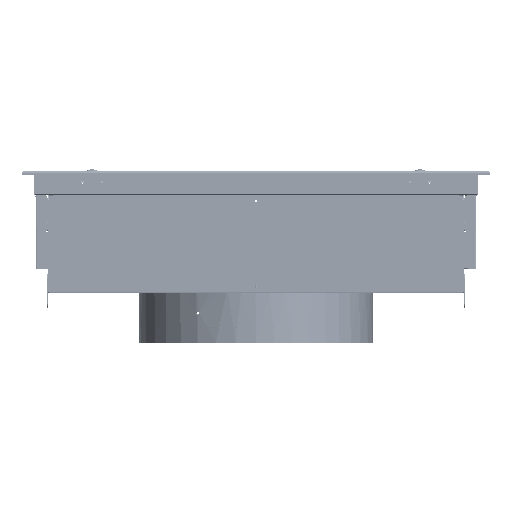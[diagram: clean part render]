
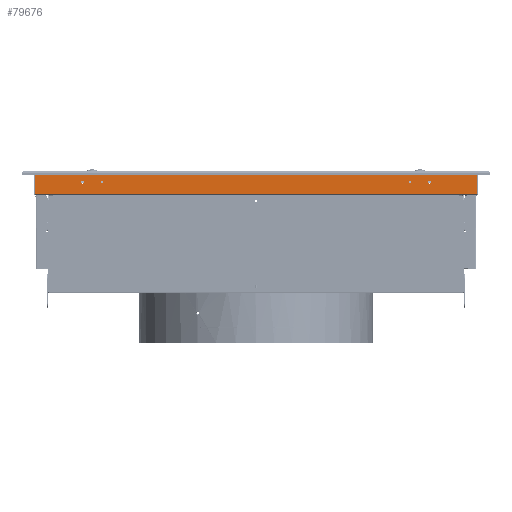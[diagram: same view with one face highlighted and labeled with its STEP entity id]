
A CAD part, left-side view. The second image highlights one B-rep face of the part: STEP entity #79676.
In plain terms, the highlighted planar face has unit normal (-1, 0, 0).
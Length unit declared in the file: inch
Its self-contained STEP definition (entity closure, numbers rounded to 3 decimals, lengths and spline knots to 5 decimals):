
#157 = CIRCLE ( 'NONE', #105210, 0.07 ) ;
#3573 = LINE ( 'NONE', #23589, #54228 ) ;
#6796 = AXIS2_PLACEMENT_3D ( 'NONE', #30932, #31533, #106891 ) ;
#7627 = ORIENTED_EDGE ( 'NONE', *, *, #98745, .T. ) ;
#10615 = ORIENTED_EDGE ( 'NONE', *, *, #43054, .T. ) ;
#10876 = DIRECTION ( 'NONE',  ( 0., 0., -1. ) ) ;
#11579 = DIRECTION ( 'NONE',  ( 1., 0., 0. ) ) ;
#14715 = CIRCLE ( 'NONE', #20509, 0.07 ) ;
#15019 = EDGE_CURVE ( 'NONE', #50428, #52494, #30771, .T. ) ;
#16388 = VERTEX_POINT ( 'NONE', #114848 ) ;
#19076 = VERTEX_POINT ( 'NONE', #105179 ) ;
#20407 = CARTESIAN_POINT ( 'NONE',  ( -23.268, -13.90153, 0. ) ) ;
#20509 = AXIS2_PLACEMENT_3D ( 'NONE', #61173, #115278, #52063 ) ;
#20677 = EDGE_CURVE ( 'NONE', #68345, #19076, #33368, .T. ) ;
#22431 = DIRECTION ( 'NONE',  ( 0., 0., -1. ) ) ;
#22580 = EDGE_CURVE ( 'NONE', #30948, #114108, #39740, .T. ) ;
#23589 = CARTESIAN_POINT ( 'NONE',  ( -23.268, 11.233, 0. ) ) ;
#24751 = ORIENTED_EDGE ( 'NONE', *, *, #108066, .T. ) ;
#24934 = EDGE_CURVE ( 'NONE', #16388, #50199, #82701, .T. ) ;
#25482 = CARTESIAN_POINT ( 'NONE',  ( -23.268, 7.8141, -0.4845 ) ) ;
#28915 = EDGE_CURVE ( 'NONE', #96119, #36358, #88503, .T. ) ;
#30771 = CIRCLE ( 'NONE', #81234, 0.07 ) ;
#30932 = CARTESIAN_POINT ( 'NONE',  ( -23.268, 8.8141, -0.5545 ) ) ;
#30948 = VERTEX_POINT ( 'NONE', #117316 ) ;
#30993 = DIRECTION ( 'NONE',  ( 0., 0., -1. ) ) ;
#31355 = CARTESIAN_POINT ( 'NONE',  ( -23.268, 7.8141, -0.5545 ) ) ;
#31533 = DIRECTION ( 'NONE',  ( 1., 0., 0. ) ) ;
#31615 = CARTESIAN_POINT ( 'NONE',  ( -23.268, -7.8141, -0.4845 ) ) ;
#32103 = DIRECTION ( 'NONE',  ( 0., 0., -1. ) ) ;
#32438 = AXIS2_PLACEMENT_3D ( 'NONE', #20407, #66615, #112792 ) ;
#33368 = CIRCLE ( 'NONE', #37308, 0.07 ) ;
#34195 = AXIS2_PLACEMENT_3D ( 'NONE', #70467, #78380, #22431 ) ;
#35161 = VECTOR ( 'NONE', #75728, 39.37008 ) ;
#35358 = EDGE_CURVE ( 'NONE', #19076, #68345, #68080, .T. ) ;
#36358 = VERTEX_POINT ( 'NONE', #39240 ) ;
#36418 = ORIENTED_EDGE ( 'NONE', *, *, #95702, .T. ) ;
#37308 = AXIS2_PLACEMENT_3D ( 'NONE', #31355, #85496, #70708 ) ;
#37478 = FACE_BOUND ( 'NONE', #85392, .T. ) ;
#38066 = FACE_BOUND ( 'NONE', #113868, .T. ) ;
#39240 = CARTESIAN_POINT ( 'NONE',  ( -23.268, -8.8141, -0.6245 ) ) ;
#39388 = ORIENTED_EDGE ( 'NONE', *, *, #24934, .F. ) ;
#39672 = DIRECTION ( 'NONE',  ( 0., 0., -1. ) ) ;
#39740 = CIRCLE ( 'NONE', #6796, 0.07 ) ;
#39831 = LINE ( 'NONE', #93354, #35161 ) ;
#43054 = EDGE_CURVE ( 'NONE', #59632, #50199, #3573, .T. ) ;
#44709 = ORIENTED_EDGE ( 'NONE', *, *, #22580, .T. ) ;
#50199 = VERTEX_POINT ( 'NONE', #74527 ) ;
#50428 = VERTEX_POINT ( 'NONE', #70179 ) ;
#51749 = CARTESIAN_POINT ( 'NONE',  ( -23.268, 8.8141, -0.5545 ) ) ;
#52063 = DIRECTION ( 'NONE',  ( 0., 0., -1. ) ) ;
#52494 = VERTEX_POINT ( 'NONE', #31615 ) ;
#54228 = VECTOR ( 'NONE', #32103, 39.37008 ) ;
#55833 = ORIENTED_EDGE ( 'NONE', *, *, #35358, .T. ) ;
#57353 = AXIS2_PLACEMENT_3D ( 'NONE', #94836, #11579, #30993 ) ;
#57514 = ORIENTED_EDGE ( 'NONE', *, *, #20677, .T. ) ;
#58111 = PLANE ( 'NONE',  #32438 ) ;
#59632 = VERTEX_POINT ( 'NONE', #96792 ) ;
#60270 = DIRECTION ( 'NONE',  ( 0., 0., -1. ) ) ;
#61173 = CARTESIAN_POINT ( 'NONE',  ( -23.268, -7.8141, -0.5545 ) ) ;
#65033 = DIRECTION ( 'NONE',  ( 1., 0., 0. ) ) ;
#65972 = LINE ( 'NONE', #84209, #92830 ) ;
#66615 = DIRECTION ( 'NONE',  ( 1., 0., 0. ) ) ;
#66791 = CARTESIAN_POINT ( 'NONE',  ( -23.268, -7.8141, -0.5545 ) ) ;
#67814 = FACE_BOUND ( 'NONE', #104584, .T. ) ;
#68080 = CIRCLE ( 'NONE', #116608, 0.07 ) ;
#68345 = VERTEX_POINT ( 'NONE', #25482 ) ;
#69334 = VECTOR ( 'NONE', #91208, 39.37008 ) ;
#70179 = CARTESIAN_POINT ( 'NONE',  ( -23.268, -7.8141, -0.6245 ) ) ;
#70467 = CARTESIAN_POINT ( 'NONE',  ( -23.268, -8.8141, -0.5545 ) ) ;
#70708 = DIRECTION ( 'NONE',  ( 0., 0., -1. ) ) ;
#74527 = CARTESIAN_POINT ( 'NONE',  ( -23.268, 11.233, -1.137 ) ) ;
#74554 = FACE_OUTER_BOUND ( 'NONE', #116361, .T. ) ;
#75425 = ORIENTED_EDGE ( 'NONE', *, *, #28915, .T. ) ;
#75728 = DIRECTION ( 'NONE',  ( 0., 0., 1. ) ) ;
#78380 = DIRECTION ( 'NONE',  ( 1., 0., 0. ) ) ;
#78405 = ORIENTED_EDGE ( 'NONE', *, *, #103333, .T. ) ;
#79676 = ADVANCED_FACE ( 'NONE', ( #37478, #67814, #85458, #38066, #74554 ), #58111, .F. ) ;
#81234 = AXIS2_PLACEMENT_3D ( 'NONE', #66791, #65033, #10876 ) ;
#82701 = LINE ( 'NONE', #111825, #69334 ) ;
#83642 = CARTESIAN_POINT ( 'NONE',  ( -23.268, -11.233, -0.066 ) ) ;
#84209 = CARTESIAN_POINT ( 'NONE',  ( -23.268, -13.90153, -0.066 ) ) ;
#84216 = ORIENTED_EDGE ( 'NONE', *, *, #15019, .T. ) ;
#84507 = CIRCLE ( 'NONE', #57353, 0.07 ) ;
#85280 = CARTESIAN_POINT ( 'NONE',  ( -23.268, 7.8141, -0.5545 ) ) ;
#85392 = EDGE_LOOP ( 'NONE', ( #84216, #36418 ) ) ;
#85458 = FACE_BOUND ( 'NONE', #114628, .T. ) ;
#85496 = DIRECTION ( 'NONE',  ( 1., 0., 0. ) ) ;
#86861 = EDGE_CURVE ( 'NONE', #16388, #109815, #39831, .T. ) ;
#88503 = CIRCLE ( 'NONE', #34195, 0.07 ) ;
#88722 = CARTESIAN_POINT ( 'NONE',  ( -23.268, 8.8141, -0.4845 ) ) ;
#91208 = DIRECTION ( 'NONE',  ( 0., 1., 0. ) ) ;
#92830 = VECTOR ( 'NONE', #93907, 39.37008 ) ;
#93354 = CARTESIAN_POINT ( 'NONE',  ( -23.268, -11.233, 0. ) ) ;
#93907 = DIRECTION ( 'NONE',  ( 0., 1., 0. ) ) ;
#94836 = CARTESIAN_POINT ( 'NONE',  ( -23.268, -8.8141, -0.5545 ) ) ;
#95702 = EDGE_CURVE ( 'NONE', #52494, #50428, #14715, .T. ) ;
#96035 = ORIENTED_EDGE ( 'NONE', *, *, #86861, .T. ) ;
#96119 = VERTEX_POINT ( 'NONE', #98685 ) ;
#96792 = CARTESIAN_POINT ( 'NONE',  ( -23.268, 11.233, -0.066 ) ) ;
#97320 = DIRECTION ( 'NONE',  ( 1., 0., 0. ) ) ;
#98685 = CARTESIAN_POINT ( 'NONE',  ( -23.268, -8.8141, -0.4845 ) ) ;
#98745 = EDGE_CURVE ( 'NONE', #36358, #96119, #84507, .T. ) ;
#103333 = EDGE_CURVE ( 'NONE', #109815, #59632, #65972, .T. ) ;
#104584 = EDGE_LOOP ( 'NONE', ( #7627, #75425 ) ) ;
#105179 = CARTESIAN_POINT ( 'NONE',  ( -23.268, 7.8141, -0.6245 ) ) ;
#105210 = AXIS2_PLACEMENT_3D ( 'NONE', #51749, #97320, #60270 ) ;
#105891 = DIRECTION ( 'NONE',  ( 1., 0., 0. ) ) ;
#106891 = DIRECTION ( 'NONE',  ( 0., 0., -1. ) ) ;
#108066 = EDGE_CURVE ( 'NONE', #114108, #30948, #157, .T. ) ;
#109815 = VERTEX_POINT ( 'NONE', #83642 ) ;
#111825 = CARTESIAN_POINT ( 'NONE',  ( -23.268, -13.90153, -1.137 ) ) ;
#112792 = DIRECTION ( 'NONE',  ( 0., 0., -1. ) ) ;
#113868 = EDGE_LOOP ( 'NONE', ( #44709, #24751 ) ) ;
#114108 = VERTEX_POINT ( 'NONE', #88722 ) ;
#114628 = EDGE_LOOP ( 'NONE', ( #55833, #57514 ) ) ;
#114848 = CARTESIAN_POINT ( 'NONE',  ( -23.268, -11.233, -1.137 ) ) ;
#115278 = DIRECTION ( 'NONE',  ( 1., 0., 0. ) ) ;
#116361 = EDGE_LOOP ( 'NONE', ( #96035, #78405, #10615, #39388 ) ) ;
#116608 = AXIS2_PLACEMENT_3D ( 'NONE', #85280, #105891, #39672 ) ;
#117316 = CARTESIAN_POINT ( 'NONE',  ( -23.268, 8.8141, -0.6245 ) ) ;
